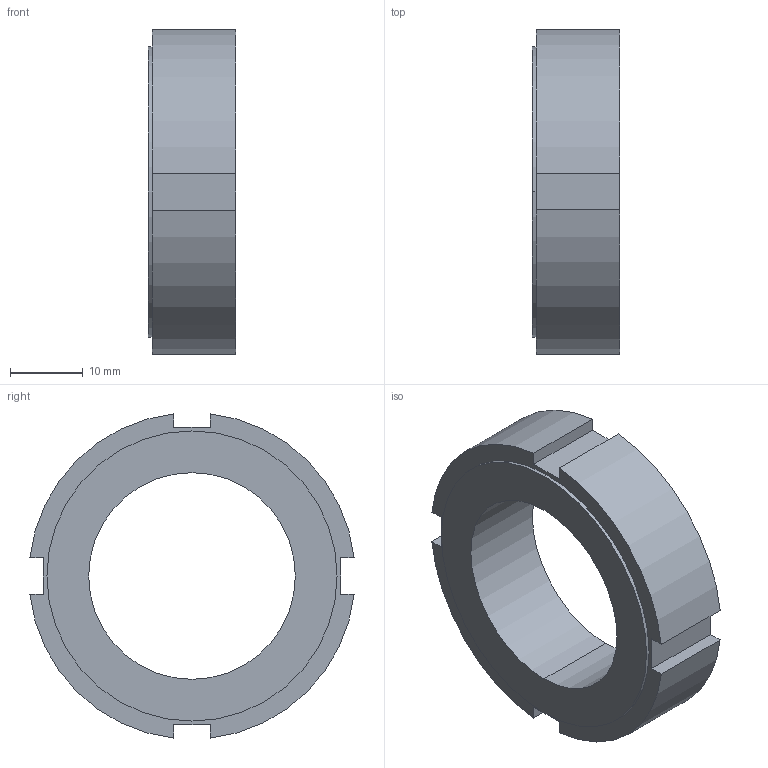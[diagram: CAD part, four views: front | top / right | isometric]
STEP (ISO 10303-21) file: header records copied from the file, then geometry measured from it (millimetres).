
FILE_DESCRIPTION (( 'STEP AP203' ), '1' );
FILE_NAME ('HIR30.STEP', '2002-08-15T11:39:49', ( '.' ), ( '.' ), 'SwSTEP 2.0', 'SolidWorks 2001340', '' );
FILE_SCHEMA (( 'CONFIG_CONTROL_DESIGN' ));
Length unit declared in the file: millimetre
Products named in the file (1): HIR30
Bounding box: 12 x 44.72 x 44.72 mm (x, y, z)
Volume: 10813.7 mm3; surface area: 4760.6 mm2
Topology: 1 solids, 1 shells, 23 faces, 60 edges, 40 vertices
Faces by surface type: plane 15, cylinder 8
Entity records: 791 total; most frequent: CARTESIAN_POINT 124, DIRECTION 124, ORIENTED_EDGE 120, EDGE_CURVE 60, LINE 44, VECTOR 44, VERTEX_POINT 40, AXIS2_PLACEMENT_3D 40
